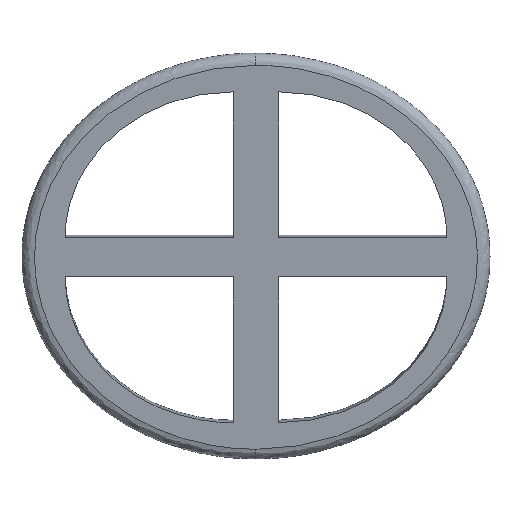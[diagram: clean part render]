
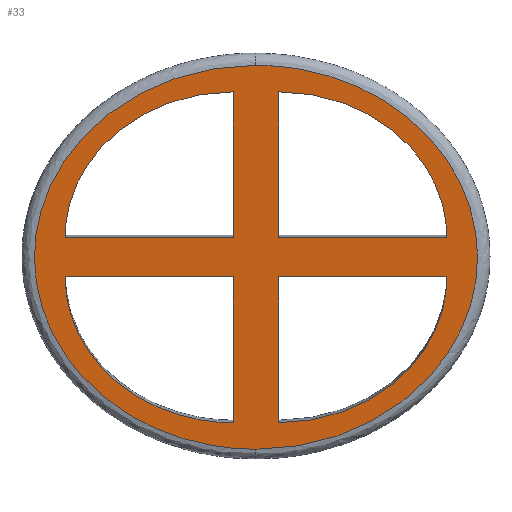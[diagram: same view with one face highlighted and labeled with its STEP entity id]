
A CAD part, front view. The second image highlights one B-rep face of the part: STEP entity #33.
In plain terms, the highlighted planar face has unit normal (-0.001, -0.994, -0.107).
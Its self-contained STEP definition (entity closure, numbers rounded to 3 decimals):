
#24=FACE_BOUND('',#70,.T.);
#25=FACE_BOUND('',#71,.T.);
#26=FACE_BOUND('',#72,.T.);
#27=FACE_BOUND('',#73,.T.);
#33=ADVANCED_FACE('',(#51,#24,#25,#26,#27),#308,.T.);
#51=FACE_OUTER_BOUND('',#69,.T.);
#69=EDGE_LOOP('',(#98,#99));
#70=EDGE_LOOP('',(#100,#101,#102));
#71=EDGE_LOOP('',(#103,#104,#105));
#72=EDGE_LOOP('',(#106,#107,#108));
#73=EDGE_LOOP('',(#109,#110,#111));
#98=ORIENTED_EDGE('',*,*,#197,.T.);
#99=ORIENTED_EDGE('',*,*,#231,.T.);
#100=ORIENTED_EDGE('',*,*,#204,.F.);
#101=ORIENTED_EDGE('',*,*,#189,.F.);
#102=ORIENTED_EDGE('',*,*,#188,.F.);
#103=ORIENTED_EDGE('',*,*,#190,.F.);
#104=ORIENTED_EDGE('',*,*,#208,.F.);
#105=ORIENTED_EDGE('',*,*,#191,.F.);
#106=ORIENTED_EDGE('',*,*,#192,.F.);
#107=ORIENTED_EDGE('',*,*,#215,.F.);
#108=ORIENTED_EDGE('',*,*,#193,.F.);
#109=ORIENTED_EDGE('',*,*,#225,.T.);
#110=ORIENTED_EDGE('',*,*,#194,.T.);
#111=ORIENTED_EDGE('',*,*,#195,.T.);
#188=EDGE_CURVE('',#279,#280,#232,.T.);
#189=EDGE_CURVE('',#280,#281,#233,.T.);
#190=EDGE_CURVE('',#283,#284,#234,.T.);
#191=EDGE_CURVE('',#284,#282,#235,.T.);
#192=EDGE_CURVE('',#286,#287,#236,.T.);
#193=EDGE_CURVE('',#287,#285,#237,.T.);
#194=EDGE_CURVE('',#288,#289,#238,.T.);
#195=EDGE_CURVE('',#289,#290,#239,.T.);
#197=EDGE_CURVE('',#303,#307,#259,.T.);
#204=EDGE_CURVE('',#281,#279,#261,.T.);
#208=EDGE_CURVE('',#282,#283,#265,.T.);
#215=EDGE_CURVE('',#285,#286,#269,.T.);
#225=EDGE_CURVE('',#290,#288,#271,.T.);
#231=EDGE_CURVE('',#307,#303,#277,.T.);
#232=B_SPLINE_CURVE_WITH_KNOTS('',1,(#1213,#1214),.UNSPECIFIED.,.F.,.F.,
(2,2),(6.283,6.783),.UNSPECIFIED.);
#233=B_SPLINE_CURVE_WITH_KNOTS('',1,(#1215,#1216),.UNSPECIFIED.,.F.,.F.,
(2,2),(6.783,7.783),.UNSPECIFIED.);
#234=B_SPLINE_CURVE_WITH_KNOTS('',1,(#1217,#1218),.UNSPECIFIED.,.F.,.F.,
(2,2),(5.142,6.142),.UNSPECIFIED.);
#235=B_SPLINE_CURVE_WITH_KNOTS('',1,(#1219,#1220),.UNSPECIFIED.,.F.,.F.,
(2,2),(6.142,6.642),.UNSPECIFIED.);
#236=B_SPLINE_CURVE_WITH_KNOTS('',1,(#1221,#1222),.UNSPECIFIED.,.F.,.F.,
(2,2),(6.142,7.142),.UNSPECIFIED.);
#237=B_SPLINE_CURVE_WITH_KNOTS('',1,(#1223,#1224),.UNSPECIFIED.,.F.,.F.,
(2,2),(7.142,7.642),.UNSPECIFIED.);
#238=B_SPLINE_CURVE_WITH_KNOTS('',1,(#1225,#1226),.UNSPECIFIED.,.F.,.F.,
(2,2),(0.,1.),.UNSPECIFIED.);
#239=B_SPLINE_CURVE_WITH_KNOTS('',1,(#1227,#1228),.UNSPECIFIED.,.F.,.F.,
(2,2),(1.,1.5),.UNSPECIFIED.);
#259=(
BOUNDED_CURVE()
B_SPLINE_CURVE(2,(#1234,#1235,#1236,#1237,#1238),.UNSPECIFIED.,.F.,.F.)
B_SPLINE_CURVE_WITH_KNOTS((3,2,3),(0.,1.571,3.142),
 .UNSPECIFIED.)
CURVE()
GEOMETRIC_REPRESENTATION_ITEM()
RATIONAL_B_SPLINE_CURVE((1.,0.707,1.,0.707,1.))
REPRESENTATION_ITEM('')
);
#261=(
BOUNDED_CURVE()
B_SPLINE_CURVE(2,(#1252,#1253,#1254),.UNSPECIFIED.,.F.,.F.)
B_SPLINE_CURVE_WITH_KNOTS((3,3),(7.783,9.354),
 .UNSPECIFIED.)
CURVE()
GEOMETRIC_REPRESENTATION_ITEM()
RATIONAL_B_SPLINE_CURVE((1.,0.707,1.))
REPRESENTATION_ITEM('')
);
#265=(
BOUNDED_CURVE()
B_SPLINE_CURVE(2,(#1262,#1263,#1264),.UNSPECIFIED.,.F.,.F.)
B_SPLINE_CURVE_WITH_KNOTS((3,3),(3.571,5.142),
 .UNSPECIFIED.)
CURVE()
GEOMETRIC_REPRESENTATION_ITEM()
RATIONAL_B_SPLINE_CURVE((1.,0.707,1.))
REPRESENTATION_ITEM('')
);
#269=(
BOUNDED_CURVE()
B_SPLINE_CURVE(2,(#1278,#1279,#1280),.UNSPECIFIED.,.F.,.F.)
B_SPLINE_CURVE_WITH_KNOTS((3,3),(4.571,6.142),
 .UNSPECIFIED.)
CURVE()
GEOMETRIC_REPRESENTATION_ITEM()
RATIONAL_B_SPLINE_CURVE((1.,0.707,1.))
REPRESENTATION_ITEM('')
);
#271=(
BOUNDED_CURVE()
B_SPLINE_CURVE(2,(#1300,#1301,#1302),.UNSPECIFIED.,.F.,.F.)
B_SPLINE_CURVE_WITH_KNOTS((3,3),(1.5,3.071),.UNSPECIFIED.)
CURVE()
GEOMETRIC_REPRESENTATION_ITEM()
RATIONAL_B_SPLINE_CURVE((1.,0.707,1.))
REPRESENTATION_ITEM('')
);
#277=(
BOUNDED_CURVE()
B_SPLINE_CURVE(2,(#1371,#1372,#1373,#1374,#1375),.UNSPECIFIED.,.F.,.F.)
B_SPLINE_CURVE_WITH_KNOTS((3,2,3),(3.142,4.712,6.283),
 .UNSPECIFIED.)
CURVE()
GEOMETRIC_REPRESENTATION_ITEM()
RATIONAL_B_SPLINE_CURVE((1.,0.707,1.,0.707,1.))
REPRESENTATION_ITEM('')
);
#279=VERTEX_POINT('',#1127);
#280=VERTEX_POINT('',#1128);
#281=VERTEX_POINT('',#1129);
#282=VERTEX_POINT('',#1130);
#283=VERTEX_POINT('',#1131);
#284=VERTEX_POINT('',#1132);
#285=VERTEX_POINT('',#1133);
#286=VERTEX_POINT('',#1134);
#287=VERTEX_POINT('',#1135);
#288=VERTEX_POINT('',#1136);
#289=VERTEX_POINT('',#1137);
#290=VERTEX_POINT('',#1138);
#303=VERTEX_POINT('',#1151);
#307=VERTEX_POINT('',#1155);
#308=PLANE('',#346);
#346=AXIS2_PLACEMENT_3D('',#552,#359,$);
#359=DIRECTION('',(-0.001,-0.994,-0.107));
#552=CARTESIAN_POINT('',(-28.659,-91.972,-15.424));
#1127=CARTESIAN_POINT('',(-2.95,-92.417,-11.589));
#1128=CARTESIAN_POINT('',(-2.95,-94.405,6.856));
#1129=CARTESIAN_POINT('',(-24.231,-94.38,6.858));
#1130=CARTESIAN_POINT('',(-2.95,-96.927,30.244));
#1131=CARTESIAN_POINT('',(-24.231,-94.913,11.803));
#1132=CARTESIAN_POINT('',(-2.95,-94.938,11.8));
#1133=CARTESIAN_POINT('',(2.754,-92.424,-11.59));
#1134=CARTESIAN_POINT('',(24.035,-94.438,6.852));
#1135=CARTESIAN_POINT('',(2.754,-94.412,6.855));
#1136=CARTESIAN_POINT('',(24.035,-94.971,11.796));
#1137=CARTESIAN_POINT('',(2.754,-94.945,11.799));
#1138=CARTESIAN_POINT('',(2.754,-96.934,30.244));
#1151=CARTESIAN_POINT('',(-0.098,-92.059,-14.942));
#1155=CARTESIAN_POINT('',(-0.098,-97.292,33.597));
#1213=CARTESIAN_POINT('',(-2.95,-92.417,-11.589));
#1214=CARTESIAN_POINT('',(-2.95,-94.405,6.856));
#1215=CARTESIAN_POINT('',(-2.95,-94.405,6.856));
#1216=CARTESIAN_POINT('',(-24.231,-94.38,6.858));
#1217=CARTESIAN_POINT('',(-24.231,-94.913,11.803));
#1218=CARTESIAN_POINT('',(-2.95,-94.938,11.8));
#1219=CARTESIAN_POINT('',(-2.95,-94.938,11.8));
#1220=CARTESIAN_POINT('',(-2.95,-96.927,30.244));
#1221=CARTESIAN_POINT('',(24.035,-94.438,6.852));
#1222=CARTESIAN_POINT('',(2.754,-94.412,6.855));
#1223=CARTESIAN_POINT('',(2.754,-94.412,6.855));
#1224=CARTESIAN_POINT('',(2.754,-92.424,-11.59));
#1225=CARTESIAN_POINT('',(24.035,-94.971,11.796));
#1226=CARTESIAN_POINT('',(2.754,-94.945,11.799));
#1227=CARTESIAN_POINT('',(2.754,-94.945,11.799));
#1228=CARTESIAN_POINT('',(2.754,-96.934,30.244));
#1234=CARTESIAN_POINT('',(-0.098,-92.059,-14.942));
#1235=CARTESIAN_POINT('',(27.903,-92.092,-14.946));
#1236=CARTESIAN_POINT('',(27.903,-94.709,9.324));
#1237=CARTESIAN_POINT('',(27.903,-97.326,33.593));
#1238=CARTESIAN_POINT('',(-0.098,-97.292,33.597));
#1252=CARTESIAN_POINT('',(-24.231,-94.38,6.858));
#1253=CARTESIAN_POINT('',(-24.231,-92.391,-11.586));
#1254=CARTESIAN_POINT('',(-2.95,-92.417,-11.589));
#1262=CARTESIAN_POINT('',(-2.95,-96.927,30.244));
#1263=CARTESIAN_POINT('',(-24.231,-96.901,30.247));
#1264=CARTESIAN_POINT('',(-24.231,-94.913,11.803));
#1278=CARTESIAN_POINT('',(2.754,-92.424,-11.59));
#1279=CARTESIAN_POINT('',(24.035,-92.449,-11.593));
#1280=CARTESIAN_POINT('',(24.035,-94.438,6.852));
#1300=CARTESIAN_POINT('',(2.754,-96.934,30.244));
#1301=CARTESIAN_POINT('',(24.035,-96.96,30.241));
#1302=CARTESIAN_POINT('',(24.035,-94.971,11.796));
#1371=CARTESIAN_POINT('',(-0.098,-97.292,33.597));
#1372=CARTESIAN_POINT('',(-28.099,-97.258,33.6));
#1373=CARTESIAN_POINT('',(-28.099,-94.642,9.331));
#1374=CARTESIAN_POINT('',(-28.099,-92.025,-14.938));
#1375=CARTESIAN_POINT('',(-0.098,-92.059,-14.942));
